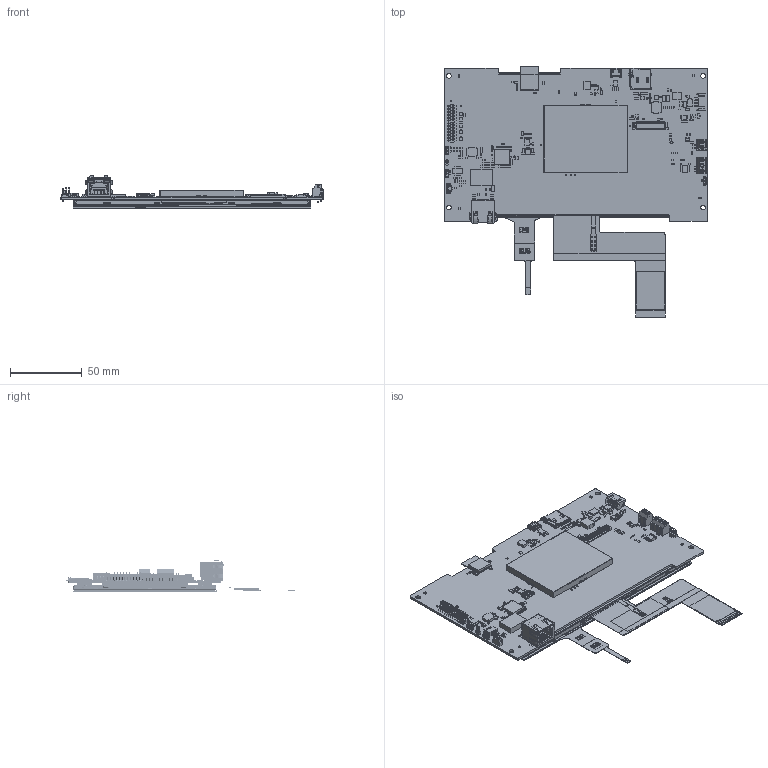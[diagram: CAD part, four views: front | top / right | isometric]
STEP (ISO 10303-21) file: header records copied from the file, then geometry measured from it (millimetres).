
FILE_DESCRIPTION((''),'2;1');
FILE_NAME('00_FTC-07WN_ASM','2025-10-14T19:04:42',('Jimmy_Tseng'),(''),'CREO PARAMETRIC BY PTC INC, 2024273','CREO PARAMETRIC BY PTC INC, 2024273','');
FILE_SCHEMA(('CONFIG_CONTROL_DESIGN'));
Products named in the file (55): 3D_JD-WV070WB006H_ASM; E195ETCAXA0001R; FTC-07WN_SPONGE-RF; FTC-07WN_SPONGE-TP; FTC-05WN_EMI-COVER; FTC-07WN_A0-M; A-R1206; A-R0603; E1213103004H; A-R0402; E121220102EH; E121220222BH; E1613210000R; E1213102200H; E1304000041H; E1305509442H; E1300031640H; E1301055140R; A-C0603; A-C1206; A-C0805; A-C0402; E16L2303400R; E1613310000R; E1311390611H; E1060700002H; E123130256HH; E1213009004002H; E1660210202H; E14S3674500H; E1305422040H; E1662411202H; E1315013811H; E1673206138R; E14S0801000H; E14S4348700H; E1315090810H; E1305046440H; E14S3506900H; E14S3352600H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
Assembly tree (298 placements, depth 3):
  00_FTC-07WN_ASM
    3D_JD-WV070WB006H_ASM
    E195ETCAXA0001R  x4
    FTC-07WN_SPONGE-RF  x2
    FTC-07WN_SPONGE-TP  x2
    FTC-05WN_EMI-COVER
    FTC-07WN_A0-M_ASM
      FTC-07WN_A0-M
      A-R1206
      A-R0603  x6
      E1213103004H  x7
      A-R0402  x127
      E121220102EH
      E121220222BH
      E1613210000R
      E1213102200H  x3
      E1304000041H
      E1305509442H
      E1300031640H
      E1301055140R
      A-C0603  x10
      A-C1206  x4
      A-C0805  x3
      A-C0402  x74
      E16L2303400R
      E195ETCAXA0001R  x4
      E1613310000R  x3
      E1311390611H
      E1060700002H
      E123130256HH
      E1213009004002H
      E1660210202H
      E14S3674500H
      E1305422040H  x2
      E1662411202H
      E1315013811H
      E1673206138R
      E14S0801000H
      E14S4348700H
      E1315090810H
      E1305046440H  x7
      E14S3506900H
      E14S3352600H
      E14S3800302H
      E14S3836800H
      E16D3510300H
      E1694092100H
      E16G2121304R
      E14S4323200H
      E14S3001200H
      E1613D20001R
      E1673240134R
      E14S4550000H
      E1911102035303230H
      E1911105A18048001H
      E16L2302400R
Bounding box: 184 x 175.51 x 22.8 mm (x, y, z)
Volume: 117369.7 mm3; surface area: 193708.4 mm2
Topology: 311 solids, 317 shells, 12218 faces, 34914 edges, 22984 vertices
Faces by surface type: plane 9376, cylinder 2581, bspline 92, cone 56, sphere 54, torus 35, extrusion 22, revolution 2
Entity records: 344181 total; most frequent: CARTESIAN_POINT 69252, ORIENTED_EDGE 59306, DIRECTION 54924, EDGE_CURVE 29666, VECTOR 23618, LINE 23596, VERTEX_POINT 19628, AXIS2_PLACEMENT_3D 15652
